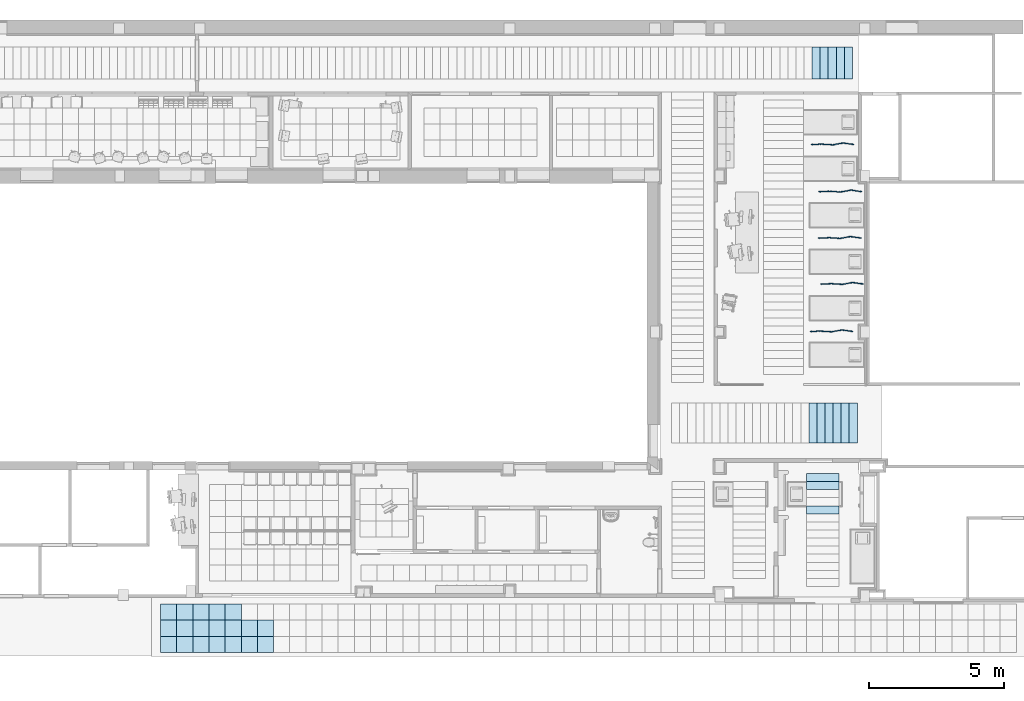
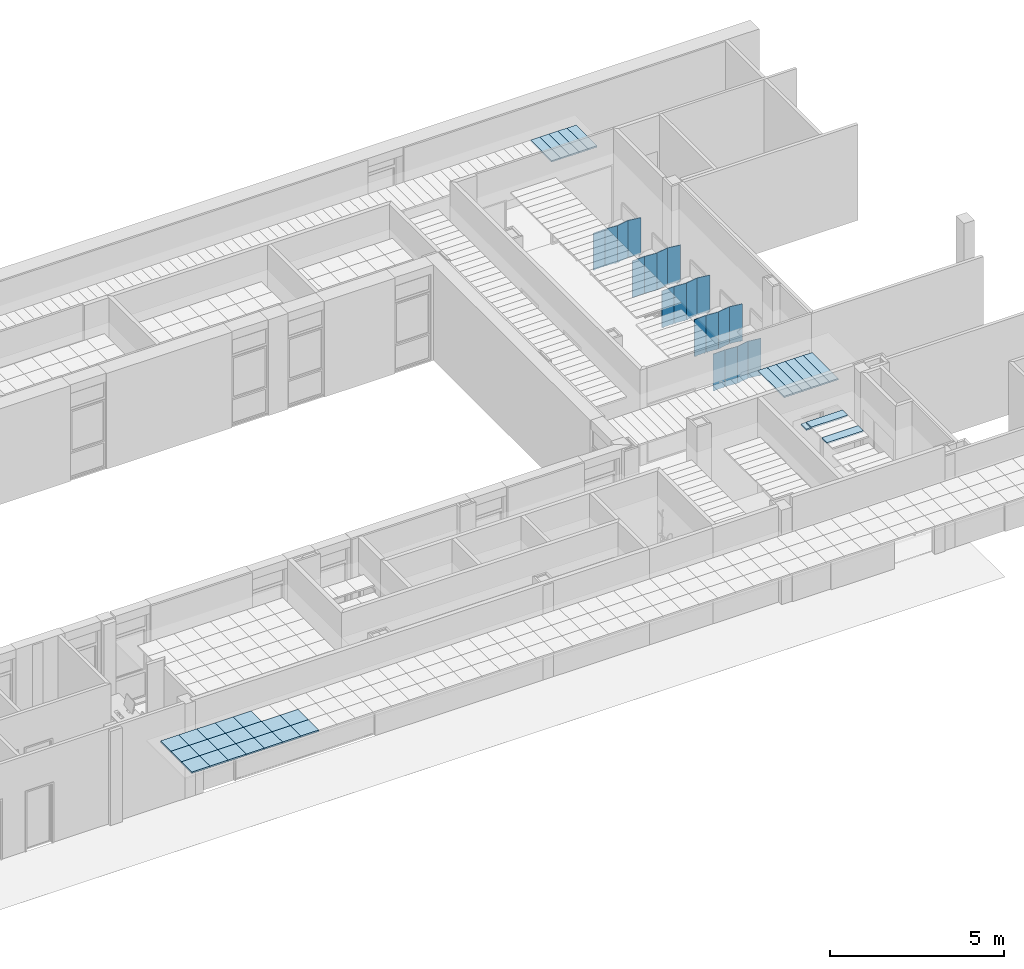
# One storey, part 13 of 68: 53 slabs.
"""IFC2X3 building model written with IfcOpenShell, lengths in millimetres."""

from ifc_helpers import new_model, entity, si_unit, converted_unit, derived_unit, money_unit, direction, frame, origin_with_axes, place, context, subcontext, project, spatial, polyline, outline, extrude, faceted_brep, source, transform, mapped, material, layer, layer_set, layer_usage, type_object, element, save


model = new_model("IFC2X3")

# Units and contexts
model_context = context("Model", 3, precision=0.01, world=origin_with_axes(), true_north=direction((0.0, 1.0)))
body_context = subcontext(model_context, "Body", "Model", "MODEL_VIEW")
ifc_project = project(units=[si_unit("LENGTHUNIT", "METRE", prefix="MILLI"), si_unit("AREAUNIT", "SQUARE_METRE"), si_unit("VOLUMEUNIT", "CUBIC_METRE"), converted_unit("PLANEANGLEUNIT", "DEGREE", entity("IfcPlaneAngleMeasure", 0.0174532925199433), si_unit("PLANEANGLEUNIT", "RADIAN"), dimensions=[0, 0, 0, 0, 0, 0, 0]), money_unit("USD"), converted_unit("TIMEUNIT", "Year", entity("IfcTimeMeasure", 31557600.0), si_unit("TIMEUNIT", "SECOND"), dimensions=[0, 0, 1, 0, 0, 0, 0]), si_unit("MASSUNIT", "GRAM", prefix="KILO"), si_unit("THERMODYNAMICTEMPERATUREUNIT", "DEGREE_CELSIUS"), si_unit("LUMINOUSINTENSITYUNIT", "LUMEN"), si_unit("ENERGYUNIT", "JOULE", prefix="MEGA"), derived_unit("THERMALCONDUCTANCEUNIT", [(si_unit("POWERUNIT", "WATT"), 1), (si_unit("LENGTHUNIT", "METRE"), -1), (si_unit("THERMODYNAMICTEMPERATUREUNIT", "KELVIN"), -1)]), derived_unit("SPECIFICHEATCAPACITYUNIT", [(si_unit("ENERGYUNIT", "JOULE"), 1), (si_unit("MASSUNIT", "GRAM", prefix="KILO"), -1), (si_unit("THERMODYNAMICTEMPERATUREUNIT", "KELVIN"), -1)]), derived_unit("MASSDENSITYUNIT", [(si_unit("MASSUNIT", "GRAM", prefix="KILO"), 1), (si_unit("VOLUMEUNIT", "CUBIC_METRE"), -1)])], contexts=[model_context])

# Site, building, storey
site_placement = place(None, origin_with_axes())
site = spatial("IfcSite", under=ifc_project, at=site_placement, Name="Sitio", CompositionType="ELEMENT")
building_placement = place(site_placement, origin_with_axes())
building = spatial("IfcBuilding", under=site, at=building_placement, Name="Construcción", CompositionType="ELEMENT")
storey_placement = place(building_placement, origin_with_axes())
storey = spatial("IfcBuildingStorey", under=building, at=storey_placement, Name="PLANTA 1ª", CompositionType="ELEMENT", Elevation=0.0)

# Slabs
slab_type_1 = type_object("IfcSlabType", Name="Mampara Divisoria Oficinas 27", PredefinedType="FLOOR")
shared_shape = source(origin_with_axes(), body_context, "Body", "Brep", [
    faceted_brep([(-20.0, 0.0, 30.0), (-20.0, 0.0, 1280.0), (-380.0000000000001, 0.0, 1280.0), (-380.0000000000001, 0.0, 30.0), (-20.0, 20.0, 30.0), (-20.0, 20.0, 1280.0), (-380.0000000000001, 20.0, 1280.0), (-380.0000000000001, 20.0, 30.0)], [[[0, 1, 2, 3]], [[4, 5, 1, 0]], [[1, 5, 6, 2]], [[3, 2, 6, 7]], [[0, 3, 7, 4]], [[7, 6, 5, 4]]]),
    faceted_brep([(0.0, 20.0, 9.999999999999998), (0.0, 0.0, 10.0), (-400.0, 0.0, 10.0), (-400.0, 20.0, 9.999999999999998), (0.0, 20.00000000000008, 1300.0), (0.0, 0.0, 1300.0), (-400.0, 0.0, 1300.0), (-20.0, 0.0, 30.0), (-380.0000000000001, 0.0, 30.0), (-380.0000000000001, 0.0, 1280.0), (-20.0, 0.0, 1280.0), (-400.0, 20.00000000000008, 1300.0), (-20.0, 20.0, 30.0), (-20.0, 20.00000000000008, 1280.0), (-380.0000000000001, 20.00000000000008, 1280.0), (-380.0000000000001, 20.0, 30.0)], [[[0, 1, 2, 3]], [[4, 5, 1, 0]], [[1, 5, 6, 2], [7, 8, 9, 10]], [[3, 2, 6, 11]], [[0, 3, 11, 4], [12, 13, 14, 15]], [[11, 6, 5, 4]], [[15, 8, 7, 12]], [[14, 9, 8, 15]], [[13, 10, 9, 14]], [[12, 7, 10, 13]]]),
    faceted_brep([(-64.14213562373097, -4.142135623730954, 0.0), (-70.0, 10.0, 0.0), (-64.14213562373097, 24.14213562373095, 0.0), (-50.0, 30.00000000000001, 0.0), (-35.85786437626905, 24.14213562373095, 0.0), (-30.0, 10.0, 0.0), (-35.85786437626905, -4.142135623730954, 0.0), (-50.0, -10.0, 0.0), (-64.14213562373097, -4.142135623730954, 10.0), (-70.0, 10.0, 10.0), (-64.14213562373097, 24.14213562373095, 10.0), (-50.0, 30.00000000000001, 10.0), (-35.85786437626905, 24.14213562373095, 10.0), (-30.0, 10.0, 10.0), (-35.85786437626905, -4.142135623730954, 10.0), (-50.0, -10.0, 10.0)], [[[0, 1, 2, 3, 4, 5, 6, 7]], [[0, 8, 9, 1]], [[1, 9, 10, 2]], [[2, 10, 11, 3]], [[3, 11, 12, 4]], [[4, 12, 13, 5]], [[5, 13, 14, 6]], [[6, 14, 15, 7]], [[7, 15, 8, 0]], [[8, 15, 14, 13, 12, 11, 10, 9]]]),
    faceted_brep([(-364.142135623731, -4.142135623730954, 0.0), (-370.0000000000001, 10.0, 0.0), (-364.142135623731, 24.14213562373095, 0.0), (-350.0000000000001, 30.00000000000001, 0.0), (-335.857864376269, 24.14213562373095, 0.0), (-330.0, 10.0, 0.0), (-335.857864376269, -4.142135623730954, 0.0), (-350.0000000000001, -10.0, 0.0), (-364.142135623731, -4.142135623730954, 10.0), (-370.0000000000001, 10.0, 10.0), (-364.142135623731, 24.14213562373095, 10.0), (-350.0000000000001, 30.00000000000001, 10.0), (-335.857864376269, 24.14213562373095, 10.0), (-330.0, 10.0, 10.0), (-335.857864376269, -4.142135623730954, 10.0), (-350.0000000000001, -10.0, 10.0)], [[[0, 1, 2, 3, 4, 5, 6, 7]], [[0, 8, 9, 1]], [[1, 9, 10, 2]], [[2, 10, 11, 3]], [[3, 11, 12, 4]], [[4, 12, 13, 5]], [[5, 13, 14, 6]], [[6, 14, 15, 7]], [[7, 15, 8, 0]], [[8, 15, 14, 13, 12, 11, 10, 9]]]),
])
for number, where, z_axis, x_axis in (
    (1, (4003.827100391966, -240.5611024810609, 150.0), (0.0, 0.0, 1.0), (-0.9991263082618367, -0.04179258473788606, 0.0)),
    (2, (5469.887536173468, -3657.473531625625, 150.0), (0.0, 0.0, 1.0), (-0.9888857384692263, 0.1486774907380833, 0.0)),
    (3, (5069.633430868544, -3727.928265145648, 150.0), (0.0, 0.0, 1.0), (-0.9844057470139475, -0.175912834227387, 0.0)),
    (4, (4675.475598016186, -3700.142936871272, 150.0), (0.0, 0.0, 1.0), (-0.997630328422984, 0.06880209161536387, 0.0)),
    (5, (4364.782334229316, -7170.609041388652, 150.0), (0.0, 0.0, 1.0), (-0.997630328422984, 0.06880209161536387, 0.0)),
    (6, (4355.543001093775, -5425.52680939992, 150.0), (0.0, 0.0, 1.0), (-0.9991263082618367, -0.04179258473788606, 0.0)),
    (7, (5151.563250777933, -5436.625023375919, 150.0), (0.0, 0.0, 1.0), (-0.9844057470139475, -0.175912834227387, 0.0)),
    (8, (4273.613181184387, -3716.830051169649, 150.0), (0.0, 0.0, 1.0), (-0.9991263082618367, -0.04179258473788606, 0.0)),
    (9, (5551.817356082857, -5366.170289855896, 150.0), (0.0, 0.0, 1.0), (-0.9888857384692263, 0.1486774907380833, 0.0)),
    (10, (4758.940167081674, -7198.394369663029, 150.0), (0.0, 0.0, 1.0), (-0.9844057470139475, -0.175912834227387, 0.0)),
    (11, (4757.405417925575, -5408.839695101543, 150.0), (0.0, 0.0, 1.0), (-0.997630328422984, 0.06880209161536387, 0.0)),
    (12, (5159.194272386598, -7127.939636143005, 150.0), (0.0, 0.0, 1.0), (-0.9888857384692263, 0.1486774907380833, 0.0)),
    (13, (3962.919917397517, -7187.29615568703, 150.0), (0.0, 0.0, 1.0), (-0.9991263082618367, -0.04179258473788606, 0.0)),
    (14, (5200.101455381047, -181.2045829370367, 150.0), (0.0, 0.0, 1.0), (-0.9888857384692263, 0.1486774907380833, 0.0)),
    (15, (4799.847350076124, -251.6593164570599, 150.0), (0.0, 0.0, 1.0), (-0.9844057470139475, -0.175912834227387, 0.0)),
    (16, (4405.689517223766, -223.8739881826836, 150.0), (0.0, 0.0, 1.0), (-0.997630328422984, 0.06880209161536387, 0.0)),
    (17, (4294.735785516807, -1992.720696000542, 150.0), (0.0, 0.0, 1.0), (-0.9991263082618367, -0.04179258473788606, 0.0)),
    (18, (4696.598202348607, -1976.033581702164, 150.0), (0.0, 0.0, 1.0), (-0.997630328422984, 0.06880209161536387, 0.0)),
    (19, (5090.756035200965, -2003.818909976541, 150.0), (0.0, 0.0, 1.0), (-0.9844057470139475, -0.175912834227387, 0.0)),
    (20, (5491.010140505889, -1933.364176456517, 150.0), (0.0, 0.0, 1.0), (-0.9888857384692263, 0.1486774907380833, 0.0)),
):
    element("IfcSlab", number, at=place(storey_placement, frame(where, z_axis=z_axis, x_axis=x_axis)), inside=storey, type_object=slab_type_1, Name="60.20.70 Armari", PredefinedType="FLOOR", context=body_context, shape_type="MappedRepresentation", body=[
        mapped(shared_shape, transform((0.0, 0.0, 0.0))),
    ])
ifc_material_1 = material(Name="ARQ_ME126_CelRas_Placa_Metallica")
ifc_layer_1 = layer(ifc_material_1, 50.0, ventilated="UNKNOWN")
ifc_layer_set_1 = layer_set([ifc_layer_1], Name="ARQ_ME126_CelRas_Placa_Metallica 50")
ifc_layer_usage_1 = layer_usage(ifc_layer_set_1, "AXIS3", "NEGATIVE", 50.0)
slab_type_2 = type_object("IfcSlabType", Name="ARQ_ME126_CelRas_Placa_Metallica 50", PredefinedType="NOTDEFINED")
slab_1_placement = place(storey_placement, frame((5238.317134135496, 3382.153621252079, 2500.0), z_axis=(0.0, 0.0, 1.0), x_axis=(1.0, 0.0, 0.0)))
element("IfcSlab", 21, at=slab_1_placement, inside=storey, type_object=slab_type_2, material=ifc_layer_usage_1, Name="SLA - 026", PredefinedType="NOTDEFINED", context=body_context, shape_type="SweptSolid", body=[
    extrude(outline(polyline([(0.0, 0.0), (0.0, -1199.999999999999), (300.0000000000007, -1199.999999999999), (300.0000000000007, 0.0), (0.0, 0.0)])), frame((0.0, 0.0, -50.0), z_axis=(0.0, 0.0, 1.0), x_axis=(1.0, 0.0, 0.0)), (0.0, 0.0, 1.0), 50.0),
])
ifc_layer_usage_2 = layer_usage(ifc_layer_set_1, "AXIS3", "NEGATIVE", 50.0)
slab_2_placement = place(storey_placement, frame((4938.317134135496, 3382.153621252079, 2500.0), z_axis=(0.0, 0.0, 1.0), x_axis=(1.0, 0.0, 0.0)))
element("IfcSlab", 22, at=slab_2_placement, inside=storey, type_object=slab_type_2, material=ifc_layer_usage_2, Name="SLA - 026", PredefinedType="NOTDEFINED", context=body_context, shape_type="SweptSolid", body=[
    extrude(outline(polyline([(0.0, 0.0), (0.0, -1199.999999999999), (300.0000000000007, -1199.999999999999), (300.0000000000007, 0.0), (0.0, 0.0)])), frame((0.0, 0.0, -50.0), z_axis=(0.0, 0.0, 1.0), x_axis=(1.0, 0.0, 0.0)), (0.0, 0.0, 1.0), 50.0),
])
ifc_layer_usage_3 = layer_usage(ifc_layer_set_1, "AXIS3", "NEGATIVE", 50.0)
slab_3_placement = place(storey_placement, frame((4638.317134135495, 3382.153621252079, 2500.0), z_axis=(0.0, 0.0, 1.0), x_axis=(1.0, 0.0, 0.0)))
element("IfcSlab", 23, at=slab_3_placement, inside=storey, type_object=slab_type_2, material=ifc_layer_usage_3, Name="SLA - 026", PredefinedType="NOTDEFINED", context=body_context, shape_type="SweptSolid", body=[
    extrude(outline(polyline([(0.0, 0.0), (0.0, -1199.999999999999), (300.0000000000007, -1199.999999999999), (300.0000000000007, 0.0), (0.0, 0.0)])), frame((0.0, 0.0, -50.0), z_axis=(0.0, 0.0, 1.0), x_axis=(1.0, 0.0, 0.0)), (0.0, 0.0, 1.0), 50.0),
])
ifc_layer_usage_4 = layer_usage(ifc_layer_set_1, "AXIS3", "NEGATIVE", 50.0)
slab_4_placement = place(storey_placement, frame((4338.317134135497, 3382.153621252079, 2500.0), z_axis=(0.0, 0.0, 1.0), x_axis=(1.0, 0.0, 0.0)))
element("IfcSlab", 24, at=slab_4_placement, inside=storey, type_object=slab_type_2, material=ifc_layer_usage_4, Name="SLA - 026", PredefinedType="NOTDEFINED", context=body_context, shape_type="SweptSolid", body=[
    extrude(outline(polyline([(0.0, 0.0), (0.0, -1199.999999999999), (300.0000000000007, -1199.999999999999), (300.0000000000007, 0.0), (0.0, 0.0)])), frame((0.0, 0.0, -50.0), z_axis=(0.0, 0.0, 1.0), x_axis=(1.0, 0.0, 0.0)), (0.0, 0.0, 1.0), 50.0),
])
ifc_layer_usage_5 = layer_usage(ifc_layer_set_1, "AXIS3", "NEGATIVE", 50.0)
slab_5_placement = place(storey_placement, frame((3832.900750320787, -13971.4759060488, 2500.0), z_axis=(0.0, 0.0, 1.0), x_axis=(1.0, 0.0, 0.0)))
element("IfcSlab", 25, at=slab_5_placement, inside=storey, type_object=slab_type_2, material=ifc_layer_usage_5, Name="SLA - 026", PredefinedType="NOTDEFINED", context=body_context, shape_type="SweptSolid", body=[
    extrude(outline(polyline([(0.0, 0.0), (1199.999999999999, 0.0), (1199.999999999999, 299.9999999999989), (0.0, 299.9999999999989), (0.0, 0.0)])), frame((0.0, 0.0, -50.0), z_axis=(0.0, 0.0, 1.0), x_axis=(1.0, 0.0, 0.0)), (0.0, 0.0, 1.0), 50.0),
])
ifc_layer_usage_6 = layer_usage(ifc_layer_set_1, "AXIS3", "NEGATIVE", 50.0)
slab_6_placement = place(storey_placement, frame((3832.900750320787, -13071.4759060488, 2500.0), z_axis=(0.0, 0.0, 1.0), x_axis=(1.0, 0.0, 0.0)))
element("IfcSlab", 26, at=slab_6_placement, inside=storey, type_object=slab_type_2, material=ifc_layer_usage_6, Name="SLA - 026", PredefinedType="NOTDEFINED", context=body_context, shape_type="SweptSolid", body=[
    extrude(outline(polyline([(0.0, 0.0), (1199.999999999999, 0.0), (1199.999999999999, 299.9999999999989), (0.0, 299.9999999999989), (0.0, 0.0)])), frame((0.0, 0.0, -50.0), z_axis=(0.0, 0.0, 1.0), x_axis=(1.0, 0.0, 0.0)), (0.0, 0.0, 1.0), 50.0),
])
ifc_layer_usage_7 = layer_usage(ifc_layer_set_1, "AXIS3", "NEGATIVE", 50.0)
slab_7_placement = place(storey_placement, frame((3832.900750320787, -12771.4759060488, 2250.0), z_axis=(0.0, 0.0, 1.0), x_axis=(1.0, 0.0, 0.0)))
element("IfcSlab", 27, at=slab_7_placement, inside=storey, type_object=slab_type_2, material=ifc_layer_usage_7, Name="SLA - 026", PredefinedType="NOTDEFINED", context=body_context, shape_type="SweptSolid", body=[
    extrude(outline(polyline([(0.0, 0.0), (1199.999999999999, 0.0), (1199.999999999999, 299.9999999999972), (0.0, 299.9999999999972), (0.0, 0.0)])), frame((0.0, 0.0, -50.0), z_axis=(0.0, 0.0, 1.0), x_axis=(1.0, 0.0, 0.0)), (0.0, 0.0, 1.0), 50.0),
])
ifc_layer_usage_8 = layer_usage(ifc_layer_set_1, "AXIS3", "NEGATIVE", 50.0)
slab_8_placement = place(storey_placement, frame((5718.890995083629, -11348.19832695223, 2500.0), z_axis=(0.0, 0.0, 1.0), x_axis=(1.0, 0.0, 0.0)))
element("IfcSlab", 28, at=slab_8_placement, inside=storey, type_object=slab_type_2, material=ifc_layer_usage_8, Name="SLA - 026", PredefinedType="NOTDEFINED", context=body_context, shape_type="SweptSolid", body=[
    extrude(outline(polyline([(0.0, 0.0), (0.0, 1500.0), (-299.9999999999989, 1500.0), (-299.9999999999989, 0.0), (0.0, 0.0)])), frame((0.0, 0.0, -50.0), z_axis=(0.0, 0.0, 1.0), x_axis=(1.0, 0.0, 0.0)), (0.0, 0.0, 1.0), 50.0),
])
ifc_layer_usage_9 = layer_usage(ifc_layer_set_1, "AXIS3", "NEGATIVE", 50.0)
slab_9_placement = place(storey_placement, frame((5418.890995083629, -11348.19832695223, 2500.0), z_axis=(0.0, 0.0, 1.0), x_axis=(1.0, 0.0, 0.0)))
element("IfcSlab", 29, at=slab_9_placement, inside=storey, type_object=slab_type_2, material=ifc_layer_usage_9, Name="SLA - 026", PredefinedType="NOTDEFINED", context=body_context, shape_type="SweptSolid", body=[
    extrude(outline(polyline([(0.0, 0.0), (0.0, 1500.0), (-299.9999999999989, 1500.0), (-299.9999999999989, 0.0), (0.0, 0.0)])), frame((0.0, 0.0, -50.0), z_axis=(0.0, 0.0, 1.0), x_axis=(1.0, 0.0, 0.0)), (0.0, 0.0, 1.0), 50.0),
])
ifc_layer_usage_10 = layer_usage(ifc_layer_set_1, "AXIS3", "NEGATIVE", 50.0)
slab_10_placement = place(storey_placement, frame((5118.89099508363, -11348.19832695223, 2500.0), z_axis=(0.0, 0.0, 1.0), x_axis=(1.0, 0.0, 0.0)))
element("IfcSlab", 30, at=slab_10_placement, inside=storey, type_object=slab_type_2, material=ifc_layer_usage_10, Name="SLA - 026", PredefinedType="NOTDEFINED", context=body_context, shape_type="SweptSolid", body=[
    extrude(outline(polyline([(0.0, 0.0), (0.0, 1500.0), (-299.9999999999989, 1500.0), (-299.9999999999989, 0.0), (0.0, 0.0)])), frame((0.0, 0.0, -50.0), z_axis=(0.0, 0.0, 1.0), x_axis=(1.0, 0.0, 0.0)), (0.0, 0.0, 1.0), 50.0),
])
ifc_layer_usage_11 = layer_usage(ifc_layer_set_1, "AXIS3", "NEGATIVE", 50.0)
slab_11_placement = place(storey_placement, frame((4818.890995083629, -11348.19832695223, 2500.0), z_axis=(0.0, 0.0, 1.0), x_axis=(1.0, 0.0, 0.0)))
element("IfcSlab", 31, at=slab_11_placement, inside=storey, type_object=slab_type_2, material=ifc_layer_usage_11, Name="SLA - 026", PredefinedType="NOTDEFINED", context=body_context, shape_type="SweptSolid", body=[
    extrude(outline(polyline([(0.0, 0.0), (0.0, 1500.0), (-299.9999999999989, 1500.0), (-299.9999999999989, 0.0), (0.0, 0.0)])), frame((0.0, 0.0, -50.0), z_axis=(0.0, 0.0, 1.0), x_axis=(1.0, 0.0, 0.0)), (0.0, 0.0, 1.0), 50.0),
])
ifc_layer_usage_12 = layer_usage(ifc_layer_set_1, "AXIS3", "NEGATIVE", 50.0)
slab_12_placement = place(storey_placement, frame((4518.890995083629, -11348.19832695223, 2500.0), z_axis=(0.0, 0.0, 1.0), x_axis=(1.0, 0.0, 0.0)))
element("IfcSlab", 32, at=slab_12_placement, inside=storey, type_object=slab_type_2, material=ifc_layer_usage_12, Name="SLA - 026", PredefinedType="NOTDEFINED", context=body_context, shape_type="SweptSolid", body=[
    extrude(outline(polyline([(0.0, 0.0), (0.0, 1500.0), (-299.9999999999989, 1500.0), (-299.9999999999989, 0.0), (0.0, 0.0)])), frame((0.0, 0.0, -50.0), z_axis=(0.0, 0.0, 1.0), x_axis=(1.0, 0.0, 0.0)), (0.0, 0.0, 1.0), 50.0),
])
ifc_layer_usage_13 = layer_usage(ifc_layer_set_1, "AXIS3", "NEGATIVE", 50.0)
slab_13_placement = place(storey_placement, frame((4218.890995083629, -11348.19832695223, 2500.0), z_axis=(0.0, 0.0, 1.0), x_axis=(1.0, 0.0, 0.0)))
element("IfcSlab", 33, at=slab_13_placement, inside=storey, type_object=slab_type_2, material=ifc_layer_usage_13, Name="SLA - 026", PredefinedType="NOTDEFINED", context=body_context, shape_type="SweptSolid", body=[
    extrude(outline(polyline([(0.0, 0.0), (0.0, 1500.0), (-299.9999999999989, 1500.0), (-299.9999999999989, 0.0), (0.0, 0.0)])), frame((0.0, 0.0, -50.0), z_axis=(0.0, 0.0, 1.0), x_axis=(1.0, 0.0, 0.0)), (0.0, 0.0, 1.0), 50.0),
])
ifc_layer_usage_14 = layer_usage(ifc_layer_set_1, "AXIS3", "NEGATIVE", 50.0)
slab_14_placement = place(storey_placement, frame((4038.317134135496, 3382.153621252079, 2500.0), z_axis=(0.0, 0.0, 1.0), x_axis=(1.0, 0.0, 0.0)))
element("IfcSlab", 34, at=slab_14_placement, inside=storey, type_object=slab_type_2, material=ifc_layer_usage_14, Name="SLA - 026", PredefinedType="NOTDEFINED", context=body_context, shape_type="SweptSolid", body=[
    extrude(outline(polyline([(0.0, 0.0), (0.0, -1199.999999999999), (300.0000000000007, -1199.999999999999), (300.0000000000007, 0.0), (0.0, 0.0)])), frame((0.0, 0.0, -50.0), z_axis=(0.0, 0.0, 1.0), x_axis=(1.0, 0.0, 0.0)), (0.0, 0.0, 1.0), 50.0),
])
ifc_material_2 = material(Name="ARQ_CE217_Armstrong 60x60")
ifc_layer_2 = layer(ifc_material_2, 50.0, ventilated="UNKNOWN")
ifc_layer_set_2 = layer_set([ifc_layer_2], Name="ARQ_CE217_Armstrong 60x60 50")
ifc_layer_usage_15 = layer_usage(ifc_layer_set_2, "AXIS3", "NEGATIVE", 50.0)
slab_type_3 = type_object("IfcSlabType", Name="ARQ_CE217_Armstrong 60x60 50", PredefinedType="NOTDEFINED")
slab_15_placement = place(storey_placement, frame((-20169.70328336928, -19121.97576450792, 2500.0), z_axis=(0.0, 0.0, 1.0), x_axis=(1.0, 0.0, 0.0)))
element("IfcSlab", 35, at=slab_15_placement, inside=storey, type_object=slab_type_3, material=ifc_layer_usage_15, Name="SLA - 026", PredefinedType="NOTDEFINED", context=body_context, shape_type="SweptSolid", body=[
    extrude(outline(polyline([(0.0, 0.0), (600.0000000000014, 0.0), (600.0000000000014, 600.0000000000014), (0.0, 600.0000000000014), (0.0, 0.0)])), frame((0.0, 0.0, -50.0), z_axis=(0.0, 0.0, 1.0), x_axis=(1.0, 0.0, 0.0)), (0.0, 0.0, 1.0), 50.0),
])
ifc_layer_usage_16 = layer_usage(ifc_layer_set_2, "AXIS3", "NEGATIVE", 50.0)
slab_16_placement = place(storey_placement, frame((-20169.70328336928, -18521.97576450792, 2500.0), z_axis=(0.0, 0.0, 1.0), x_axis=(1.0, 0.0, 0.0)))
element("IfcSlab", 36, at=slab_16_placement, inside=storey, type_object=slab_type_3, material=ifc_layer_usage_16, Name="SLA - 026", PredefinedType="NOTDEFINED", context=body_context, shape_type="SweptSolid", body=[
    extrude(outline(polyline([(0.0, 0.0), (600.0000000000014, 0.0), (600.0000000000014, 600.0000000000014), (0.0, 600.0000000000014), (0.0, 0.0)])), frame((0.0, 0.0, -50.0), z_axis=(0.0, 0.0, 1.0), x_axis=(1.0, 0.0, 0.0)), (0.0, 0.0, 1.0), 50.0),
])
ifc_layer_usage_17 = layer_usage(ifc_layer_set_2, "AXIS3", "NEGATIVE", 50.0)
slab_17_placement = place(storey_placement, frame((-20169.70328336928, -17921.97576450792, 2500.0), z_axis=(0.0, 0.0, 1.0), x_axis=(1.0, 0.0, 0.0)))
element("IfcSlab", 37, at=slab_17_placement, inside=storey, type_object=slab_type_3, material=ifc_layer_usage_17, Name="SLA - 026", PredefinedType="NOTDEFINED", context=body_context, shape_type="SweptSolid", body=[
    extrude(outline(polyline([(0.0, 0.0), (600.0000000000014, 0.0), (600.0000000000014, 600.0000000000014), (0.0, 600.0000000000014), (0.0, 0.0)])), frame((0.0, 0.0, -50.0), z_axis=(0.0, 0.0, 1.0), x_axis=(1.0, 0.0, 0.0)), (0.0, 0.0, 1.0), 50.0),
])
ifc_layer_usage_18 = layer_usage(ifc_layer_set_2, "AXIS3", "NEGATIVE", 50.0)
slab_18_placement = place(storey_placement, frame((-19569.70328336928, -19121.97576450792, 2500.0), z_axis=(0.0, 0.0, 1.0), x_axis=(1.0, 0.0, 0.0)))
element("IfcSlab", 38, at=slab_18_placement, inside=storey, type_object=slab_type_3, material=ifc_layer_usage_18, Name="SLA - 026", PredefinedType="NOTDEFINED", context=body_context, shape_type="SweptSolid", body=[
    extrude(outline(polyline([(0.0, 0.0), (600.0000000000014, 0.0), (600.0000000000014, 600.0000000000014), (0.0, 600.0000000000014), (0.0, 0.0)])), frame((0.0, 0.0, -50.0), z_axis=(0.0, 0.0, 1.0), x_axis=(1.0, 0.0, 0.0)), (0.0, 0.0, 1.0), 50.0),
])
ifc_layer_usage_19 = layer_usage(ifc_layer_set_2, "AXIS3", "NEGATIVE", 50.0)
slab_19_placement = place(storey_placement, frame((-19569.70328336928, -18521.97576450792, 2500.0), z_axis=(0.0, 0.0, 1.0), x_axis=(1.0, 0.0, 0.0)))
element("IfcSlab", 39, at=slab_19_placement, inside=storey, type_object=slab_type_3, material=ifc_layer_usage_19, Name="SLA - 026", PredefinedType="NOTDEFINED", context=body_context, shape_type="SweptSolid", body=[
    extrude(outline(polyline([(0.0, 0.0), (600.0000000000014, 0.0), (600.0000000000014, 600.0000000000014), (0.0, 600.0000000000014), (0.0, 0.0)])), frame((0.0, 0.0, -50.0), z_axis=(0.0, 0.0, 1.0), x_axis=(1.0, 0.0, 0.0)), (0.0, 0.0, 1.0), 50.0),
])
ifc_layer_usage_20 = layer_usage(ifc_layer_set_2, "AXIS3", "NEGATIVE", 50.0)
slab_20_placement = place(storey_placement, frame((-19569.70328336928, -17921.97576450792, 2500.0), z_axis=(0.0, 0.0, 1.0), x_axis=(1.0, 0.0, 0.0)))
element("IfcSlab", 40, at=slab_20_placement, inside=storey, type_object=slab_type_3, material=ifc_layer_usage_20, Name="SLA - 026", PredefinedType="NOTDEFINED", context=body_context, shape_type="SweptSolid", body=[
    extrude(outline(polyline([(0.0, 0.0), (600.0000000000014, 0.0), (600.0000000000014, 600.0000000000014), (0.0, 600.0000000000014), (0.0, 0.0)])), frame((0.0, 0.0, -50.0), z_axis=(0.0, 0.0, 1.0), x_axis=(1.0, 0.0, 0.0)), (0.0, 0.0, 1.0), 50.0),
])
ifc_layer_usage_21 = layer_usage(ifc_layer_set_2, "AXIS3", "NEGATIVE", 50.0)
slab_21_placement = place(storey_placement, frame((-18969.70328336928, -19121.97576450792, 2500.0), z_axis=(0.0, 0.0, 1.0), x_axis=(1.0, 0.0, 0.0)))
element("IfcSlab", 41, at=slab_21_placement, inside=storey, type_object=slab_type_3, material=ifc_layer_usage_21, Name="SLA - 026", PredefinedType="NOTDEFINED", context=body_context, shape_type="SweptSolid", body=[
    extrude(outline(polyline([(0.0, 0.0), (600.0000000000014, 0.0), (600.0000000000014, 600.0000000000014), (0.0, 600.0000000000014), (0.0, 0.0)])), frame((0.0, 0.0, -50.0), z_axis=(0.0, 0.0, 1.0), x_axis=(1.0, 0.0, 0.0)), (0.0, 0.0, 1.0), 50.0),
])
ifc_layer_usage_22 = layer_usage(ifc_layer_set_2, "AXIS3", "NEGATIVE", 50.0)
slab_22_placement = place(storey_placement, frame((-18969.70328336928, -18521.97576450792, 2500.0), z_axis=(0.0, 0.0, 1.0), x_axis=(1.0, 0.0, 0.0)))
element("IfcSlab", 42, at=slab_22_placement, inside=storey, type_object=slab_type_3, material=ifc_layer_usage_22, Name="SLA - 026", PredefinedType="NOTDEFINED", context=body_context, shape_type="SweptSolid", body=[
    extrude(outline(polyline([(0.0, 0.0), (600.0000000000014, 0.0), (600.0000000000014, 600.0000000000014), (0.0, 600.0000000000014), (0.0, 0.0)])), frame((0.0, 0.0, -50.0), z_axis=(0.0, 0.0, 1.0), x_axis=(1.0, 0.0, 0.0)), (0.0, 0.0, 1.0), 50.0),
])
ifc_layer_usage_23 = layer_usage(ifc_layer_set_2, "AXIS3", "NEGATIVE", 50.0)
slab_23_placement = place(storey_placement, frame((-18969.70328336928, -17921.97576450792, 2500.0), z_axis=(0.0, 0.0, 1.0), x_axis=(1.0, 0.0, 0.0)))
element("IfcSlab", 43, at=slab_23_placement, inside=storey, type_object=slab_type_3, material=ifc_layer_usage_23, Name="SLA - 026", PredefinedType="NOTDEFINED", context=body_context, shape_type="SweptSolid", body=[
    extrude(outline(polyline([(0.0, 0.0), (600.0000000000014, 0.0), (600.0000000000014, 600.0000000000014), (0.0, 600.0000000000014), (0.0, 0.0)])), frame((0.0, 0.0, -50.0), z_axis=(0.0, 0.0, 1.0), x_axis=(1.0, 0.0, 0.0)), (0.0, 0.0, 1.0), 50.0),
])
ifc_layer_usage_24 = layer_usage(ifc_layer_set_2, "AXIS3", "NEGATIVE", 50.0)
slab_24_placement = place(storey_placement, frame((-18369.70328336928, -19121.97576450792, 2500.0), z_axis=(0.0, 0.0, 1.0), x_axis=(1.0, 0.0, 0.0)))
element("IfcSlab", 44, at=slab_24_placement, inside=storey, type_object=slab_type_3, material=ifc_layer_usage_24, Name="SLA - 026", PredefinedType="NOTDEFINED", context=body_context, shape_type="SweptSolid", body=[
    extrude(outline(polyline([(0.0, 0.0), (600.0000000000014, 0.0), (600.0000000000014, 600.0000000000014), (0.0, 600.0000000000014), (0.0, 0.0)])), frame((0.0, 0.0, -50.0), z_axis=(0.0, 0.0, 1.0), x_axis=(1.0, 0.0, 0.0)), (0.0, 0.0, 1.0), 50.0),
])
ifc_layer_usage_25 = layer_usage(ifc_layer_set_2, "AXIS3", "NEGATIVE", 50.0)
slab_25_placement = place(storey_placement, frame((-18369.70328336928, -18521.97576450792, 2500.0), z_axis=(0.0, 0.0, 1.0), x_axis=(1.0, 0.0, 0.0)))
element("IfcSlab", 45, at=slab_25_placement, inside=storey, type_object=slab_type_3, material=ifc_layer_usage_25, Name="SLA - 026", PredefinedType="NOTDEFINED", context=body_context, shape_type="SweptSolid", body=[
    extrude(outline(polyline([(0.0, 0.0), (600.0000000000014, 0.0), (600.0000000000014, 600.0000000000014), (0.0, 600.0000000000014), (0.0, 0.0)])), frame((0.0, 0.0, -50.0), z_axis=(0.0, 0.0, 1.0), x_axis=(1.0, 0.0, 0.0)), (0.0, 0.0, 1.0), 50.0),
])
ifc_layer_usage_26 = layer_usage(ifc_layer_set_2, "AXIS3", "NEGATIVE", 50.0)
slab_26_placement = place(storey_placement, frame((-18369.70328336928, -17921.97576450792, 2500.0), z_axis=(0.0, 0.0, 1.0), x_axis=(1.0, 0.0, 0.0)))
element("IfcSlab", 46, at=slab_26_placement, inside=storey, type_object=slab_type_3, material=ifc_layer_usage_26, Name="SLA - 026", PredefinedType="NOTDEFINED", context=body_context, shape_type="SweptSolid", body=[
    extrude(outline(polyline([(0.0, 0.0), (600.0000000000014, 0.0), (600.0000000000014, 600.0000000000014), (0.0, 600.0000000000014), (0.0, 0.0)])), frame((0.0, 0.0, -50.0), z_axis=(0.0, 0.0, 1.0), x_axis=(1.0, 0.0, 0.0)), (0.0, 0.0, 1.0), 50.0),
])
ifc_layer_usage_27 = layer_usage(ifc_layer_set_2, "AXIS3", "NEGATIVE", 50.0)
slab_27_placement = place(storey_placement, frame((-17769.70328336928, -19121.97576450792, 2500.0), z_axis=(0.0, 0.0, 1.0), x_axis=(1.0, 0.0, 0.0)))
element("IfcSlab", 47, at=slab_27_placement, inside=storey, type_object=slab_type_3, material=ifc_layer_usage_27, Name="SLA - 026", PredefinedType="NOTDEFINED", context=body_context, shape_type="SweptSolid", body=[
    extrude(outline(polyline([(0.0, 0.0), (600.0000000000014, 0.0), (600.0000000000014, 600.0000000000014), (0.0, 600.0000000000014), (0.0, 0.0)])), frame((0.0, 0.0, -50.0), z_axis=(0.0, 0.0, 1.0), x_axis=(1.0, 0.0, 0.0)), (0.0, 0.0, 1.0), 50.0),
])
ifc_layer_usage_28 = layer_usage(ifc_layer_set_2, "AXIS3", "NEGATIVE", 50.0)
slab_28_placement = place(storey_placement, frame((-17769.70328336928, -18521.97576450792, 2500.0), z_axis=(0.0, 0.0, 1.0), x_axis=(1.0, 0.0, 0.0)))
element("IfcSlab", 48, at=slab_28_placement, inside=storey, type_object=slab_type_3, material=ifc_layer_usage_28, Name="SLA - 026", PredefinedType="NOTDEFINED", context=body_context, shape_type="SweptSolid", body=[
    extrude(outline(polyline([(0.0, 0.0), (600.0000000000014, 0.0), (600.0000000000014, 600.0000000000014), (0.0, 600.0000000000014), (0.0, 0.0)])), frame((0.0, 0.0, -50.0), z_axis=(0.0, 0.0, 1.0), x_axis=(1.0, 0.0, 0.0)), (0.0, 0.0, 1.0), 50.0),
])
ifc_layer_usage_29 = layer_usage(ifc_layer_set_2, "AXIS3", "NEGATIVE", 50.0)
slab_29_placement = place(storey_placement, frame((-17769.70328336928, -17921.97576450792, 2500.0), z_axis=(0.0, 0.0, 1.0), x_axis=(1.0, 0.0, 0.0)))
element("IfcSlab", 49, at=slab_29_placement, inside=storey, type_object=slab_type_3, material=ifc_layer_usage_29, Name="SLA - 026", PredefinedType="NOTDEFINED", context=body_context, shape_type="SweptSolid", body=[
    extrude(outline(polyline([(0.0, 0.0), (600.0000000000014, 0.0), (600.0000000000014, 600.0000000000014), (0.0, 600.0000000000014), (0.0, 0.0)])), frame((0.0, 0.0, -50.0), z_axis=(0.0, 0.0, 1.0), x_axis=(1.0, 0.0, 0.0)), (0.0, 0.0, 1.0), 50.0),
])
ifc_layer_usage_30 = layer_usage(ifc_layer_set_2, "AXIS3", "NEGATIVE", 50.0)
slab_30_placement = place(storey_placement, frame((-17169.70328336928, -19121.97576450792, 2500.0), z_axis=(0.0, 0.0, 1.0), x_axis=(1.0, 0.0, 0.0)))
element("IfcSlab", 50, at=slab_30_placement, inside=storey, type_object=slab_type_3, material=ifc_layer_usage_30, Name="SLA - 026", PredefinedType="NOTDEFINED", context=body_context, shape_type="SweptSolid", body=[
    extrude(outline(polyline([(0.0, 0.0), (600.0000000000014, 0.0), (600.0000000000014, 600.0000000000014), (0.0, 600.0000000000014), (0.0, 0.0)])), frame((0.0, 0.0, -50.0), z_axis=(0.0, 0.0, 1.0), x_axis=(1.0, 0.0, 0.0)), (0.0, 0.0, 1.0), 50.0),
])
ifc_layer_usage_31 = layer_usage(ifc_layer_set_2, "AXIS3", "NEGATIVE", 50.0)
slab_31_placement = place(storey_placement, frame((-17169.70328336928, -18521.97576450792, 2500.0), z_axis=(0.0, 0.0, 1.0), x_axis=(1.0, 0.0, 0.0)))
element("IfcSlab", 51, at=slab_31_placement, inside=storey, type_object=slab_type_3, material=ifc_layer_usage_31, Name="SLA - 026", PredefinedType="NOTDEFINED", context=body_context, shape_type="SweptSolid", body=[
    extrude(outline(polyline([(0.0, 0.0), (600.0000000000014, 0.0), (600.0000000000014, 600.0000000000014), (0.0, 600.0000000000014), (0.0, 0.0)])), frame((0.0, 0.0, -50.0), z_axis=(0.0, 0.0, 1.0), x_axis=(1.0, 0.0, 0.0)), (0.0, 0.0, 1.0), 50.0),
])
ifc_layer_usage_32 = layer_usage(ifc_layer_set_2, "AXIS3", "NEGATIVE", 50.0)
slab_32_placement = place(storey_placement, frame((-16569.70328336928, -18521.97576450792, 2500.0), z_axis=(0.0, 0.0, 1.0), x_axis=(1.0, 0.0, 0.0)))
element("IfcSlab", 52, at=slab_32_placement, inside=storey, type_object=slab_type_3, material=ifc_layer_usage_32, Name="SLA - 026", PredefinedType="NOTDEFINED", context=body_context, shape_type="SweptSolid", body=[
    extrude(outline(polyline([(0.0, 0.0), (599.9999999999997, 0.0), (599.9999999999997, 600.0000000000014), (0.0, 600.0000000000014), (0.0, 0.0)])), frame((0.0, 0.0, -50.0), z_axis=(0.0, 0.0, 1.0), x_axis=(1.0, 0.0, 0.0)), (0.0, 0.0, 1.0), 50.0),
])
ifc_layer_usage_33 = layer_usage(ifc_layer_set_2, "AXIS3", "NEGATIVE", 50.0)
slab_33_placement = place(storey_placement, frame((-16569.70328336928, -19121.97576450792, 2500.0), z_axis=(0.0, 0.0, 1.0), x_axis=(1.0, 0.0, 0.0)))
element("IfcSlab", 53, at=slab_33_placement, inside=storey, type_object=slab_type_3, material=ifc_layer_usage_33, Name="SLA - 026", PredefinedType="NOTDEFINED", context=body_context, shape_type="SweptSolid", body=[
    extrude(outline(polyline([(0.0, 0.0), (599.9999999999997, 0.0), (599.9999999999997, 600.0000000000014), (0.0, 600.0000000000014), (0.0, 0.0)])), frame((0.0, 0.0, -50.0), z_axis=(0.0, 0.0, 1.0), x_axis=(1.0, 0.0, 0.0)), (0.0, 0.0, 1.0), 50.0),
])

save(model, "model.ifc")
